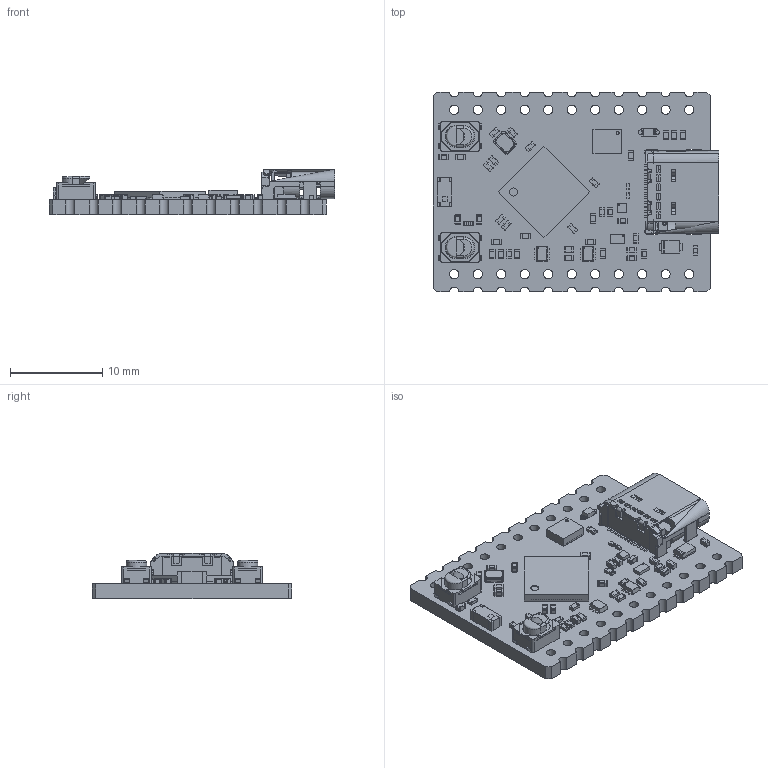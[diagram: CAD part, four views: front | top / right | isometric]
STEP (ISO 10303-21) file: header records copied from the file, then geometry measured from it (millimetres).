
FILE_DESCRIPTION(('Open CASCADE Model'),'2;1');
FILE_NAME('Open CASCADE Shape Model','2023-02-13T09:59:32',('Author'),( 'Open CASCADE'),'Open CASCADE STEP processor 7.5','Open CASCADE 7.5' ,'Unknown');
FILE_SCHEMA(('AUTOMOTIVE_DESIGN { 1 0 10303 214 1 1 1 1 }'));
Products named in the file (1): PCB
Bounding box: 30.93 x 21.59 x 4.88 mm (x, y, z)
Volume: 1100.6 mm3; surface area: 2784.2 mm2
Topology: 261 solids, 1298 shells, 4643 faces, 13737 edges, 10328 vertices
Faces by surface type: plane 3452, cylinder 905, sphere 240, torus 24, cone 16, bspline 6
Full cylindrical faces by diameter (mm): 0.125 x1, 0.15 x3, 0.325 x1, 0.5 x2, 0.6 x2, 0.8 x2, 0.875 x1, 1 x22, 1.96 x1, 2.2 x2, 2.56 x1
Entity records: 161502 total; most frequent: CARTESIAN_POINT 30040, DIRECTION 24951, ORIENTED_EDGE 21197, EDGE_CURVE 13345, LINE 10885, VECTOR 10885, VERTEX_POINT 10292, AXIS2_PLACEMENT_3D 7033
